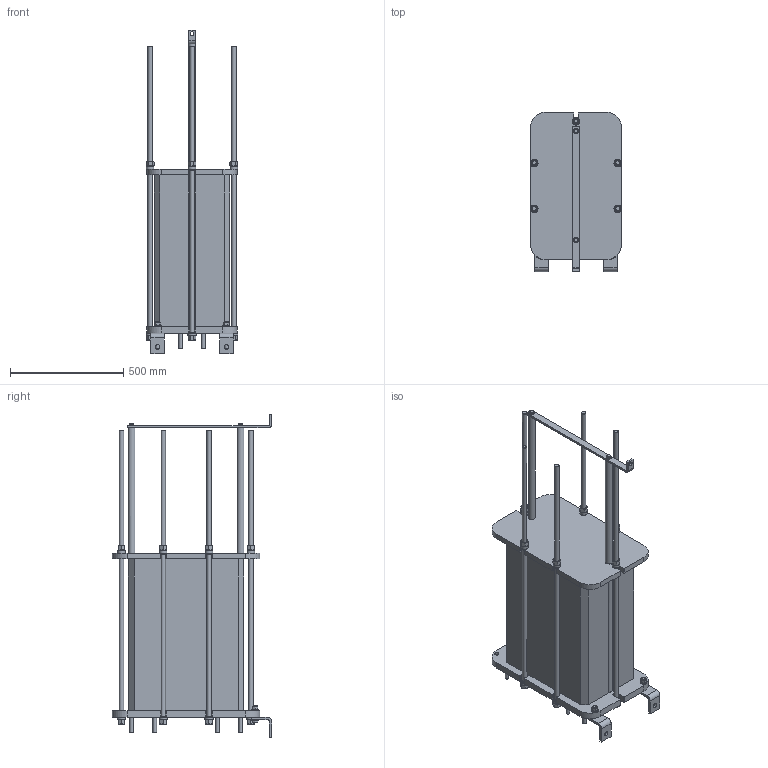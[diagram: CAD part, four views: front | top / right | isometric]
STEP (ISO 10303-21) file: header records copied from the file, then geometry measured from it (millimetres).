
FILE_DESCRIPTION((''),'2;1');
FILE_NAME('C:\temp\TS6_FG_LC1250_5_01_Rev0.stp','2009-09-27T13:01:19',('CNSHFLU'),(''),'Autodesk Inventor 2008','Autodesk Inventor 2008','');
FILE_SCHEMA(('AUTOMOTIVE_DESIGN { 1 2 10303 214 0 1 1 1 }'));
Length unit declared in the file: millimetre
Products named in the file (1): TS6
Bounding box: 406 x 704 x 1430 mm (x, y, z)
Volume: 121349430 mm3; surface area: 3390738.2 mm2
Topology: 1 solids, 7 shells, 1183 faces, 2861 edges, 1799 vertices
Faces by surface type: plane 607, cylinder 284, cone 272, bspline 20
Full cylindrical faces by diameter (mm): 3.75 x4, 12 x4, 13 x4, 13.5 x2, 16 x20, 17 x7, 18 x4, 20 x14, 21 x12, 23.166 x2, 24 x4, 26 x12, 30 x6, 33 x6, 36 x6, 65 x4, 70 x4
Entity records: 33260 total; most frequent: CARTESIAN_POINT 6795, DIRECTION 5489, ORIENTED_EDGE 5374, EDGE_CURVE 2687, AXIS2_PLACEMENT_3D 2094, VERTEX_POINT 1784, EDGE_LOOP 1485, VECTOR 1301
